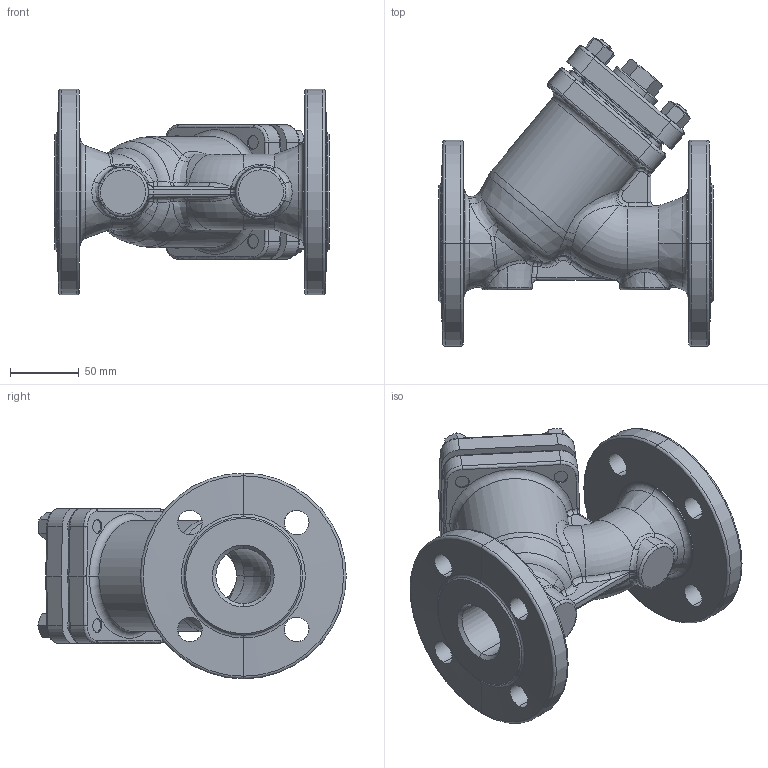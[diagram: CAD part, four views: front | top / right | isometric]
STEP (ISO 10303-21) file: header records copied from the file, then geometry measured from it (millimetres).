
FILE_DESCRIPTION (( 'STEP AP203' ), '1' );
FILE_NAME ('821_DN40 PN40.STEP', '2010-01-13T06:57:27', ( 'wtarnaws' ), ( '' ), 'SwSTEP 2.0', 'SolidWorks 2010', '' );
FILE_SCHEMA (( 'CONFIG_CONTROL_DESIGN' ));
Length unit declared in the file: millimetre
Products named in the file (6): 821_DN40 PN40; Kad³ub 40- z; Pokrywa 40; KOREK 1_Default; Nakrêtka szeœciok¹tna PN-86_M-82144_M12; M12 x 35_PreviewCfg
Assembly tree (11 placements, depth 2):
  821_DN40 PN40
    Nakrêtka szeœciok¹tna PN-86_M-82144_M12  x4
    M12 x 35_PreviewCfg  x4
    Pokrywa 40
    Kad³ub 40- z
    KOREK 1_Default
Bounding box: 200 x 224.74 x 150 mm (x, y, z)
Volume: 1197874.1 mm3; surface area: 231434 mm2
Topology: 11 solids, 11 shells, 562 faces, 1256 edges, 730 vertices
Faces by surface type: cylinder 153, cone 124, bspline 99, plane 92, torus 90, sphere 4
Entity records: 39369 total; most frequent: CARTESIAN_POINT 29603, ORIENTED_EDGE 1924, DIRECTION 1789, EDGE_CURVE 962, AXIS2_PLACEMENT_3D 780, VERTEX_POINT 562, EDGE_LOOP 466, CIRCLE 447
